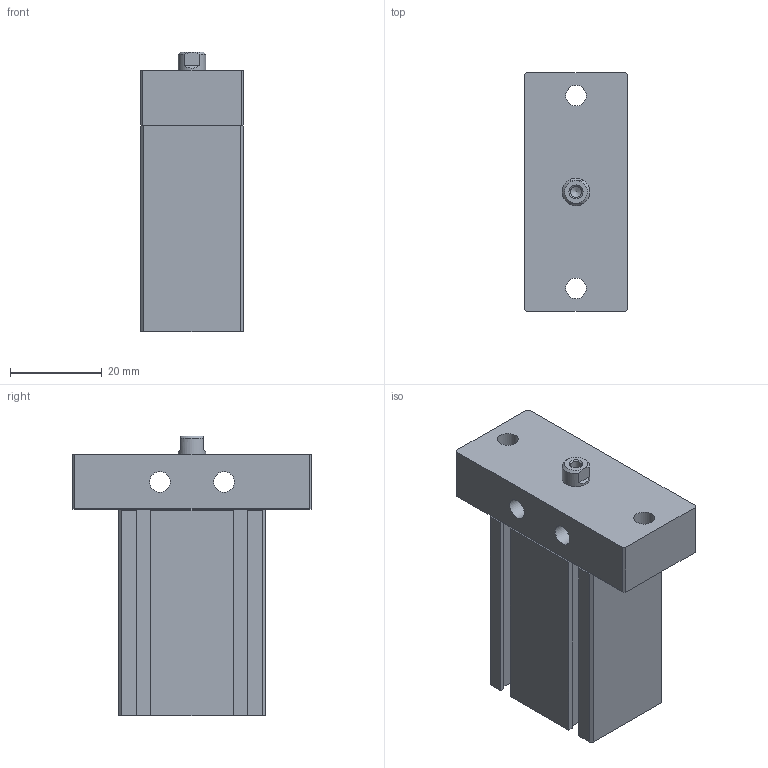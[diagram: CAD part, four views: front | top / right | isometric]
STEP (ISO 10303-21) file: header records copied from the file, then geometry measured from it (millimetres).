
FILE_DESCRIPTION((''),'2;1');
FILE_NAME('J:\3D電子目錄\氣缸\ND\ND\ND-F\ND16x20-F.stp','2008-03-12T13:53:07',('66-2f-008'),(''),'Autodesk Inventor 11','Autodesk Inventor 11','');
FILE_SCHEMA(('AUTOMOTIVE_DESIGN { 1 0 10303 214 1 1 1 1 }'));
Length unit declared in the file: millimetre
Products named in the file (1): ND16-F
Bounding box: 22.4 x 52 x 61 mm (x, y, z)
Volume: 39921.8 mm3; surface area: 13054.4 mm2
Topology: 2 solids, 2 shells, 110 faces, 268 edges, 171 vertices
Faces by surface type: plane 75, bspline 16, cone 10, cylinder 8, torus 1
Full cylindrical faces by diameter (mm): 1.5 x2, 4.5 x2, 6 x1, 10 x1, 18 x1, 19 x1
Entity records: 3158 total; most frequent: CARTESIAN_POINT 731, DIRECTION 466, ORIENTED_EDGE 464, EDGE_CURVE 232, VECTOR 180, LINE 180, VERTEX_POINT 164, EDGE_LOOP 156
